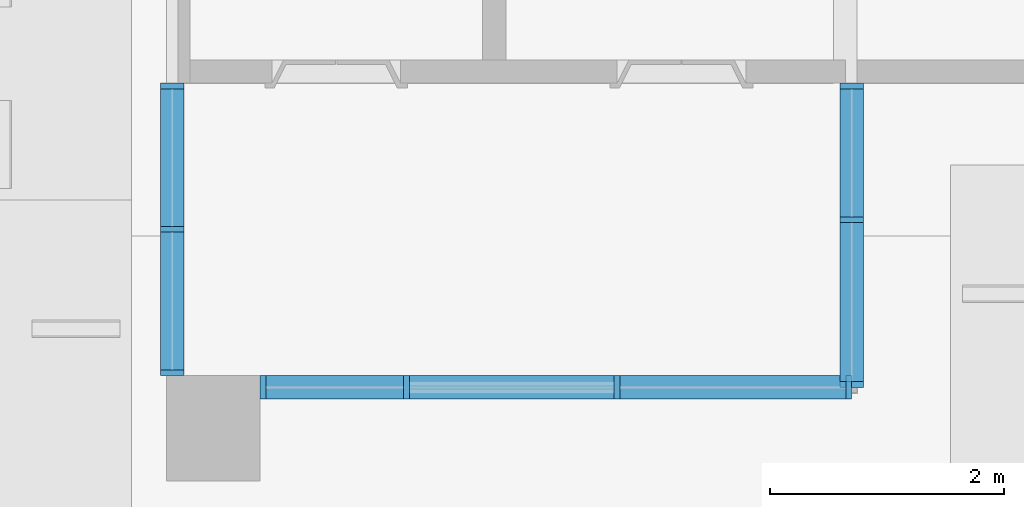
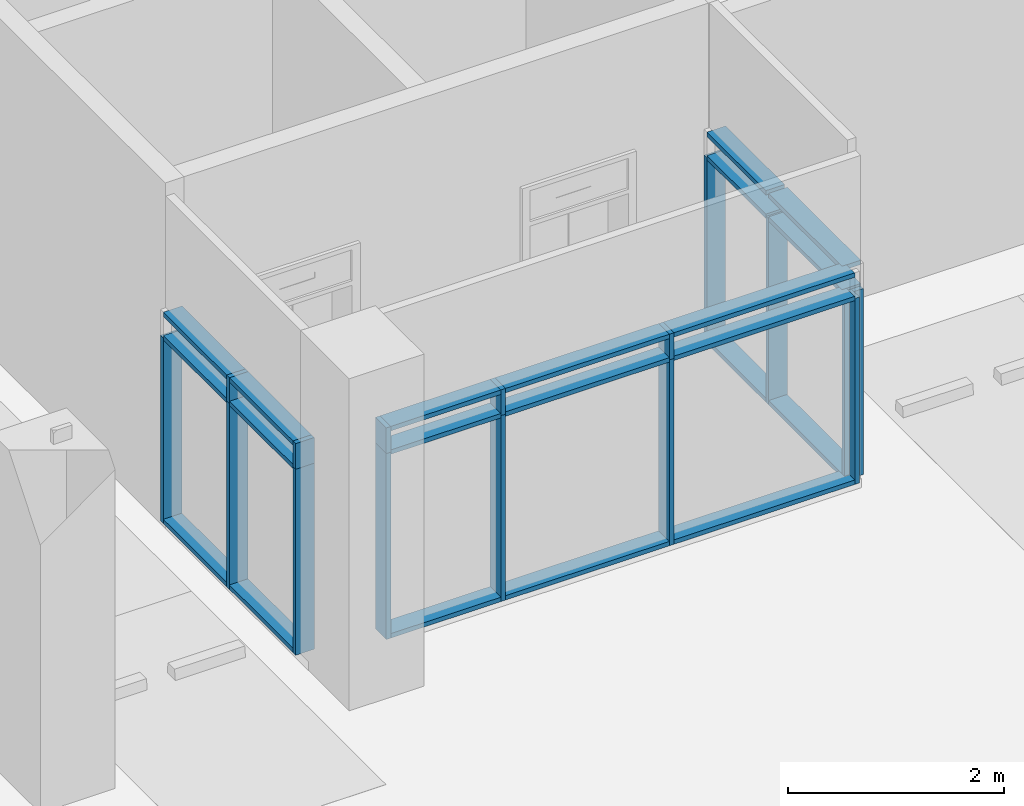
# One storey, part 2 of 30: 36 members, 3 elements without a shape of their own.
"""IFC2X3 building model written with IfcOpenShell, lengths in millimetres."""

import ifcopenshell
import ifcopenshell.guid

model = None  # the IFC model being written
_history = None  # IfcOwnerHistory: only IFC2X3 demands one
_inside = {}  # id of a spatial element -> (the spatial element, [elements in it])
_under = {}  # id of a project, library or spatial element -> (it, [spatial elements below it])
_declared = {}  # id of a project -> (the project, [libraries it declares])
_typed = {}  # id of a type object -> (the type object, [elements of that type])
_made_of = {}  # id of a material, layer set ... -> (it, [elements and type objects made of it])


def new_model(schema):
    """Start an empty IFC model of exactly this schema.

    Asked for "IFC4X3", IfcOpenShell would pick the latest addendum, in which some entities
    have other attributes; the version numbers below select the first issue.
    IFC2X3 requires an IfcOwnerHistory on every rooted entity: one is made here for all.
    """
    global model, _history
    if schema == "IFC4X3":
        model = ifcopenshell.file(schema_version=(4, 3, 0, 0))
    else:
        model = ifcopenshell.file(schema=schema)
    _inside.clear()
    _under.clear()
    _declared.clear()
    _typed.clear()
    _made_of.clear()
    _history = None
    if model.schema == "IFC2X3":
        org = make("IfcOrganization", Name="unknown")
        user = make(
            "IfcPersonAndOrganization",
            ThePerson=make("IfcPerson", FamilyName="unknown"),
            TheOrganization=org,
        )
        app = make(
            "IfcApplication",
            ApplicationDeveloper=org,
            Version="unknown",
            ApplicationFullName="unknown",
            ApplicationIdentifier="unknown",
        )
        _history = make(
            "IfcOwnerHistory",
            OwningUser=user,
            OwningApplication=app,
            ChangeAction="ADDED",
            CreationDate=0,
        )
    return model


def make(cls, **values):
    """One entity of the class cls with the attributes given. An attribute that is None is left unset."""
    return model.create_entity(
        cls, **{name: value for name, value in values.items() if value is not None}
    )


def entity(cls, *values):
    """Any entity or typed value of the class cls, its attributes in the order of the schema. None: left unset."""
    e = model.create_entity(cls)
    for i, value in enumerate(values):
        if value is not None:
            e[i] = value
    return e


def rooted(cls, **values):
    """An entity with a GlobalId (a new one), such as an element, a storey or a relation."""
    return make(cls, GlobalId=ifcopenshell.guid.new(), OwnerHistory=_history, **values)


def si_unit(unit_type, name, prefix=None):
    """IfcSIUnit, for example si_unit("LENGTHUNIT", "METRE", prefix="MILLI")."""
    return make("IfcSIUnit", UnitType=unit_type, Prefix=prefix, Name=name)


def converted_unit(unit_type, name, factor, base, dimensions=None, offset=None):
    """IfcConversionBasedUnit, such as the inch: factor (a typed value) times the base unit."""
    return make(
        "IfcConversionBasedUnit"
        if offset is None
        else "IfcConversionBasedUnitWithOffset",
        ConversionOffset=offset,
        Dimensions=None
        if dimensions is None
        else entity("IfcDimensionalExponents", *dimensions),
        UnitType=unit_type,
        Name=name,
        ConversionFactor=make(
            "IfcMeasureWithUnit", ValueComponent=factor, UnitComponent=base
        ),
    )


def derived_unit(unit_type, elements):
    """IfcDerivedUnit: a product of units, each with its exponent."""
    return make(
        "IfcDerivedUnit",
        Elements=[
            make("IfcDerivedUnitElement", Unit=unit, Exponent=power)
            for unit, power in elements
        ],
        UnitType=unit_type,
    )


def assignment(units):
    """IfcUnitAssignment: the units of a project."""
    return None if units is None else make("IfcUnitAssignment", Units=units)


def point(xyz):
    """IfcCartesianPoint."""
    return None if xyz is None else make("IfcCartesianPoint", Coordinates=xyz)


def direction(xyz):
    """IfcDirection."""
    return None if xyz is None else make("IfcDirection", DirectionRatios=xyz)


def frame(location, z_axis=None, x_axis=None):
    """IfcAxis2Placement3D, a coordinate frame: its origin and axes. An axis left out is left unset."""
    return make(
        "IfcAxis2Placement3D",
        Location=point(location),
        Axis=direction(z_axis),
        RefDirection=direction(x_axis),
    )


def frame_2d(location, x_axis=None):
    """IfcAxis2Placement2D, a coordinate frame in the plane: its origin and x axis."""
    return make(
        "IfcAxis2Placement2D", Location=point(location), RefDirection=direction(x_axis)
    )


def origin():
    """The frame at (0, 0, 0) with its axes left unset."""
    return frame((0.0, 0.0, 0.0))


def origin_2d_with_axis():
    """The frame at (0, 0) in the plane with the x axis (1, 0) written out."""
    return frame_2d((0.0, 0.0), x_axis=(1.0, 0.0))


def place(relative_to, where):
    """IfcLocalPlacement: puts the frame where relative to a parent placement (None: the world)."""
    return make(
        "IfcLocalPlacement", PlacementRelTo=relative_to, RelativePlacement=where
    )


def context(
    kind, dimensions, precision=None, world=None, true_north=None, identifier=None
):
    """IfcGeometricRepresentationContext, for example the 3D "Model" context."""
    return make(
        "IfcGeometricRepresentationContext",
        ContextIdentifier=identifier,
        ContextType=kind,
        CoordinateSpaceDimension=dimensions,
        Precision=precision,
        WorldCoordinateSystem=world,
        TrueNorth=true_north,
    )


def subcontext(parent, identifier, kind, view, scale=None):
    """IfcGeometricRepresentationSubContext, for example "Body" below "Model"."""
    return make(
        "IfcGeometricRepresentationSubContext",
        ContextIdentifier=identifier,
        ContextType=kind,
        ParentContext=parent,
        TargetScale=scale,
        TargetView=view,
    )


def project(units=None, contexts=None):
    """IfcProject with its units and contexts."""
    return rooted(
        "IfcProject",
        Name="project",
        RepresentationContexts=contexts,
        UnitsInContext=assignment(units),
    )


def spatial(cls, under=None, at=None, **own):
    """A site, building, storey or space (cls), placed at a placement, below another one or the project."""
    s = rooted(cls, ObjectPlacement=at, **own)
    if under is not None:
        _under.setdefault(under.id(), (under, []))[1].append(s)
    return s


def profile(cls, at=None, kind="AREA", **sizes):
    """A parametric profile (cls). Its sizes go by their IFC names, for example OverallWidth=200.0."""
    return make(cls, ProfileType=kind, Position=at, **sizes)


def rectangle(**sizes):
    """IfcRectangleProfileDef."""
    return profile("IfcRectangleProfileDef", **sizes)


def extrude(swept, where, along, depth):
    """IfcExtrudedAreaSolid: the profile swept, set in the frame where, extruded along a direction by depth."""
    return make(
        "IfcExtrudedAreaSolid",
        SweptArea=swept,
        Position=where,
        ExtrudedDirection=direction(along),
        Depth=depth,
    )


def shape(context_of_items, identifier, shape_type, items):
    """IfcShapeRepresentation: the items that make up one representation, for example the "Body"."""
    return make(
        "IfcShapeRepresentation",
        ContextOfItems=context_of_items,
        RepresentationIdentifier=identifier,
        RepresentationType=shape_type,
        Items=items,
    )


def source(mapping_origin, context_of_items, identifier, shape_type, items):
    """IfcRepresentationMap: a shape defined once, which mapped items show again and again."""
    return make(
        "IfcRepresentationMap",
        MappingOrigin=mapping_origin,
        MappedRepresentation=shape(context_of_items, identifier, shape_type, items),
    )


def transform(
    local_origin,
    x_axis=None,
    y_axis=None,
    z_axis=None,
    scale=None,
    scale2=None,
    scale3=None,
    uniform=True,
):
    """IfcCartesianTransformationOperator3D, or its non-uniform kind. x_axis, y_axis, z_axis: its Axis1, 2, 3."""
    if uniform:
        return make(
            "IfcCartesianTransformationOperator3D",
            Axis1=direction(x_axis),
            Axis2=direction(y_axis),
            LocalOrigin=point(local_origin),
            Scale=scale,
            Axis3=direction(z_axis),
        )
    return make(
        "IfcCartesianTransformationOperator3DnonUniform",
        Axis1=direction(x_axis),
        Axis2=direction(y_axis),
        LocalOrigin=point(local_origin),
        Scale=scale,
        Axis3=direction(z_axis),
        Scale2=scale2,
        Scale3=scale3,
    )


def mapped(mapping_source, mapping_target):
    """IfcMappedItem: shows the shape of a source again, moved by a transform."""
    return make(
        "IfcMappedItem", MappingSource=mapping_source, MappingTarget=mapping_target
    )


def material(Name=None, Category=None):
    """IfcMaterial."""
    return make("IfcMaterial", Name=Name, Category=Category)


def made_of(thing, what):
    """Note that an element or type object is made of a material, layer set ...; save() writes the relation."""
    if what is not None:
        _made_of.setdefault(what.id(), (what, []))[1].append(thing)
    return thing


def type_object(cls, material=None, **own):
    """A type object (cls), such as IfcWallType, which elements share."""
    return made_of(rooted(cls, **own), material)


def type_shapes(of_type, sources):
    """Give a type object the sources (RepresentationMaps) that its elements show as mapped items."""
    of_type.RepresentationMaps = sources


def element(
    cls,
    number,
    at=None,
    inside=None,
    cuts=None,
    type_object=None,
    material=None,
    context=None,
    identifier="Body",
    shape_type=None,
    held_by="IfcProductDefinitionShape",
    body=None,
    shapes=None,
    **own,
):
    """One element of the class cls, such as IfcWall. Its Tag is "e" and its number.

    at: its placement. inside: the storey or other place that contains it. cuts: it is an
    opening in that element (IfcRelVoidsElement). A single representation is given by context,
    identifier, shape_type and body (its items); several are given by shapes. held_by: the class
    of the entity that holds the representations. save() writes the other relations.
    """
    e = rooted(cls, Tag="e%d" % number, ObjectPlacement=at, **own)
    if body is not None:
        shapes = [shape(context, identifier, shape_type, body)]
    if shapes is not None:
        e.Representation = make(held_by, Representations=shapes)
    if inside is not None:
        _inside.setdefault(inside.id(), (inside, []))[1].append(e)
    if cuts is not None:
        rooted(
            "IfcRelVoidsElement", RelatingBuildingElement=cuts, RelatedOpeningElement=e
        )
    if type_object is not None:
        _typed.setdefault(type_object.id(), (type_object, []))[1].append(e)
    return made_of(e, material)


def aggregate(whole, parts):
    """IfcRelAggregates: a whole, such as a stair, and the parts it consists of."""
    return rooted("IfcRelAggregates", RelatingObject=whole, RelatedObjects=parts)


def save(model, path):
    """Write the relations noted so far, then the file.

    IfcRelAggregates (storeys below a building ...), IfcRelContainedInSpatialStructure (elements
    in a storey), IfcRelDefinesByType, IfcRelAssociatesMaterial and IfcRelDeclares: one each for
    every whole, place, type object, material and project.
    """
    for whole, parts in _under.values():
        aggregate(whole, parts)
    for where, things in _inside.values():
        rooted(
            "IfcRelContainedInSpatialStructure",
            RelatedElements=things,
            RelatingStructure=where,
        )
    for kind, things in _typed.values():
        rooted("IfcRelDefinesByType", RelatedObjects=things, RelatingType=kind)
    for what, things in _made_of.values():
        rooted("IfcRelAssociatesMaterial", RelatedObjects=things, RelatingMaterial=what)
    for by, libraries in _declared.values():
        rooted("IfcRelDeclares", RelatingContext=by, RelatedDefinitions=libraries)
    model.write(path)


model = new_model("IFC2X3")

# Units and contexts
model_context = context("Model", 3, precision=0.01, world=origin(), true_north=direction((6.123031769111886e-17, 1.0)))
body_context = subcontext(model_context, "Body", "Model", "MODEL_VIEW")
ifc_project = project(units=[si_unit("LENGTHUNIT", "METRE", prefix="MILLI"), si_unit("AREAUNIT", "SQUARE_METRE"), si_unit("VOLUMEUNIT", "CUBIC_METRE"), converted_unit("PLANEANGLEUNIT", "DEGREE", entity("IfcRatioMeasure", 0.017453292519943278), si_unit("PLANEANGLEUNIT", "RADIAN"), dimensions=[0, 0, 0, 0, 0, 0, 0]), si_unit("MASSUNIT", "GRAM", prefix="KILO"), derived_unit("MASSDENSITYUNIT", [(si_unit("MASSUNIT", "GRAM", prefix="KILO"), 1), (si_unit("LENGTHUNIT", "METRE"), -3)]), derived_unit("MOMENTOFINERTIAUNIT", [(si_unit("LENGTHUNIT", "METRE"), 4)]), si_unit("TIMEUNIT", "SECOND"), si_unit("FREQUENCYUNIT", "HERTZ"), si_unit("THERMODYNAMICTEMPERATUREUNIT", "DEGREE_CELSIUS"), derived_unit("THERMALTRANSMITTANCEUNIT", [(si_unit("MASSUNIT", "GRAM", prefix="KILO"), 1), (si_unit("THERMODYNAMICTEMPERATUREUNIT", "KELVIN"), -1), (si_unit("TIMEUNIT", "SECOND"), -3)]), derived_unit("VOLUMETRICFLOWRATEUNIT", [(si_unit("LENGTHUNIT", "METRE"), 3), (si_unit("TIMEUNIT", "SECOND"), -1)]), derived_unit("MASSFLOWRATEUNIT", [(si_unit("MASSUNIT", "GRAM", prefix="KILO"), 1), (si_unit("TIMEUNIT", "SECOND"), -1)]), derived_unit("ROTATIONALFREQUENCYUNIT", [(si_unit("TIMEUNIT", "SECOND"), -1)]), si_unit("ELECTRICCURRENTUNIT", "AMPERE"), si_unit("ELECTRICVOLTAGEUNIT", "VOLT"), si_unit("POWERUNIT", "WATT"), si_unit("FORCEUNIT", "NEWTON", prefix="KILO"), si_unit("ILLUMINANCEUNIT", "LUX"), si_unit("LUMINOUSFLUXUNIT", "LUMEN"), si_unit("LUMINOUSINTENSITYUNIT", "CANDELA"), derived_unit("USERDEFINED", [(si_unit("MASSUNIT", "GRAM", prefix="KILO"), -1), (si_unit("LENGTHUNIT", "METRE"), -2), (si_unit("TIMEUNIT", "SECOND"), 3), (si_unit("LUMINOUSFLUXUNIT", "LUMEN"), 1)]), derived_unit("SOUNDPOWERUNIT", [(si_unit("MASSUNIT", "GRAM", prefix="KILO"), 1), (si_unit("LENGTHUNIT", "METRE"), 2), (si_unit("TIMEUNIT", "SECOND"), -3)]), derived_unit("SOUNDPRESSUREUNIT", [(si_unit("MASSUNIT", "GRAM", prefix="KILO"), 1), (si_unit("LENGTHUNIT", "METRE"), -1), (si_unit("TIMEUNIT", "SECOND"), -2)]), derived_unit("LINEARVELOCITYUNIT", [(si_unit("LENGTHUNIT", "METRE"), 1), (si_unit("TIMEUNIT", "SECOND"), -1)]), si_unit("PRESSUREUNIT", "PASCAL"), derived_unit("USERDEFINED", [(si_unit("LENGTHUNIT", "METRE"), -2), (si_unit("MASSUNIT", "GRAM", prefix="KILO"), 1), (si_unit("TIMEUNIT", "SECOND"), -2)]), derived_unit("LINEARFORCEUNIT", [(si_unit("MASSUNIT", "GRAM", prefix="KILO"), 1), (si_unit("LENGTHUNIT", "METRE"), 1), (si_unit("TIMEUNIT", "SECOND"), -2), (si_unit("LENGTHUNIT", "METRE"), -1)]), derived_unit("PLANARFORCEUNIT", [(si_unit("MASSUNIT", "GRAM", prefix="KILO"), 1), (si_unit("LENGTHUNIT", "METRE"), 1), (si_unit("TIMEUNIT", "SECOND"), -2), (si_unit("LENGTHUNIT", "METRE"), -2)])], contexts=[model_context])

# Site, building, storey
site_placement = place(None, frame((-14167.972527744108, -657.2125860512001, 0.0)))
site = spatial("IfcSite", under=ifc_project, at=site_placement, Name="Default", CompositionType="ELEMENT")
building_placement = place(site_placement, origin())
building = spatial("IfcBuilding", under=site, at=building_placement, Name="Sample Building", CompositionType="ELEMENT")
storey_placement = place(building_placement, frame((0.0, 0.0, -10100.0)))
storey = spatial("IfcBuildingStorey", under=building, at=storey_placement, Name="지하2층", CompositionType="ELEMENT", Elevation=-10100.0)

# Curtain wall, members
curtain_wall_type = type_object("IfcCurtainWallType", Name="커튼월:CW112-스테인리스 스틸 커튼월", PredefinedType="NOTDEFINED")
curtain_wall_1_placement = place(storey_placement, frame((0.0, 0.0, 10100.0)))
curtain_wall_1 = element("IfcCurtainWall", 1, at=curtain_wall_1_placement, inside=storey, type_object=curtain_wall_type, Name="커튼월:CW112-스테인리스 스틸 커튼월", ObjectType="커튼월:CW112-스테인리스 스틸 커튼월")
ifc_material = material(Name="<Unnamed>")
member_type_1 = type_object("IfcMemberType", Name="직사각형 멀리언:CW200-직사각형 멀리언 50x200mm", PredefinedType="MULLION", material=ifc_material)
shared_shape_1 = source(origin(), body_context, "Body", "SweptSolid", [
    extrude(rectangle(XDim=200.0, YDim=50.0, at=origin_2d_with_axis()), frame((-25.0, 0.0, -1175.0), z_axis=(0.0, 0.0, 1.0), x_axis=(0.0, -1.0, 0.0)), (0.0, 0.0, 1.0), 1175.0000000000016),
])
type_shapes(member_type_1, [shared_shape_1])
member_1_placement = place(curtain_wall_1_placement, frame((30917.97249113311, 12957.21258605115, -9900.0), z_axis=(-1.0, 0.0, 0.0), x_axis=(0.0, 0.0, -1.0)))
member_1 = element("IfcMember", 2, at=member_1_placement, type_object=member_type_1, material=ifc_material, Name="직사각형 멀리언:CW200-직사각형 멀리언 50x200mm", ObjectType="직사각형 멀리언:CW200-직사각형 멀리언 50x200mm", context=body_context, shape_type="MappedRepresentation", body=[
    mapped(shared_shape_1, transform((0.0, 0.0, 0.0), scale=1.0)),
])
member_type_2 = type_object("IfcMemberType", Name="직사각형 멀리언:CW200-직사각형 멀리언 50x200mm", PredefinedType="MULLION", material=ifc_material)
shared_shape_2 = source(origin(), body_context, "Body", "SweptSolid", [
    extrude(rectangle(XDim=200.0, YDim=50.0, at=origin_2d_with_axis()), frame((-25.0, 0.0, -1175.0), z_axis=(0.0, 0.0, 1.0), x_axis=(0.0, -1.0, 0.0)), (0.0, 0.0, 1.0), 1175.000000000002),
])
type_shapes(member_type_2, [shared_shape_2])
member_2_placement = place(curtain_wall_1_placement, frame((32092.972491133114, 12957.212586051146, -7510.0), z_axis=(1.0, 0.0, 0.0), x_axis=(0.0, 0.0, 1.0)))
member_2 = element("IfcMember", 3, at=member_2_placement, type_object=member_type_2, material=ifc_material, Name="직사각형 멀리언:CW200-직사각형 멀리언 50x200mm", ObjectType="직사각형 멀리언:CW200-직사각형 멀리언 50x200mm", context=body_context, shape_type="MappedRepresentation", body=[
    mapped(shared_shape_2, transform((0.0, 0.0, 0.0), scale=1.0)),
])
member_type_3 = type_object("IfcMemberType", Name="직사각형 멀리언:CW200-직사각형 멀리언 50x200mm", PredefinedType="MULLION", material=ifc_material)
shared_shape_3 = source(origin(), body_context, "Body", "SweptSolid", [
    extrude(rectangle(XDim=200.0, YDim=50.0, at=origin_2d_with_axis()), frame((0.0, 0.0, -2100.0), z_axis=(0.0, 0.0, 1.0), x_axis=(0.0, -1.0, 0.0)), (0.0, 0.0, 1.0), 2100.0),
])
type_shapes(member_type_3, [shared_shape_3])
member_3_placement = place(curtain_wall_1_placement, frame((32117.97249113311, 12957.212586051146, -9900.0), z_axis=(0.0, 0.0, -1.0), x_axis=(1.0, 0.0, 0.0)))
member_3 = element("IfcMember", 4, at=member_3_placement, type_object=member_type_3, material=ifc_material, Name="직사각형 멀리언:CW200-직사각형 멀리언 50x200mm", ObjectType="직사각형 멀리언:CW200-직사각형 멀리언 50x200mm", context=body_context, shape_type="MappedRepresentation", body=[
    mapped(shared_shape_3, transform((0.0, 0.0, 0.0), scale=1.0)),
])
member_4_placement = place(curtain_wall_1_placement, frame((33917.97249113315, 12957.21258605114, -9900.0), z_axis=(0.0, 0.0, -1.0), x_axis=(1.0, 0.0, 0.0)))
member_4 = element("IfcMember", 5, at=member_4_placement, type_object=member_type_3, material=ifc_material, Name="직사각형 멀리언:CW200-직사각형 멀리언 50x200mm", ObjectType="직사각형 멀리언:CW200-직사각형 멀리언 50x200mm", context=body_context, shape_type="MappedRepresentation", body=[
    mapped(shared_shape_3, transform((0.0, 0.0, 0.0), scale=1.0)),
])

# Curtain wall, member
curtain_wall_2_placement = place(storey_placement, frame((0.0, 0.0, 10100.0)))
curtain_wall_2 = element("IfcCurtainWall", 6, at=curtain_wall_2_placement, inside=storey, type_object=curtain_wall_type, Name="커튼월:CW112-스테인리스 스틸 커튼월", ObjectType="커튼월:CW112-스테인리스 스틸 커튼월")
member_5_placement = place(curtain_wall_2_placement, frame((35922.97249113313, 14390.527913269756, -9900.0), z_axis=(0.0, 0.0, -1.0), x_axis=(0.0, -1.0, 0.0)))
member_5 = element("IfcMember", 7, at=member_5_placement, type_object=member_type_3, material=ifc_material, Name="직사각형 멀리언:CW200-직사각형 멀리언 50x200mm", ObjectType="직사각형 멀리언:CW200-직사각형 멀리언 50x200mm", context=body_context, shape_type="MappedRepresentation", body=[
    mapped(shared_shape_3, transform((0.0, 0.0, 0.0), scale=1.0)),
])

# Member
member_type_4 = type_object("IfcMemberType", Name="직사각형 멀리언:CW200-직사각형 멀리언 50x200mm", PredefinedType="MULLION", material=ifc_material)
shared_shape_4 = source(origin(), body_context, "Body", "SweptSolid", [
    extrude(rectangle(XDim=200.0, YDim=50.0, at=origin_2d_with_axis()), frame((-25.0, 0.0, -2100.0), z_axis=(0.0, 0.0, 1.0), x_axis=(0.0, -1.0, 0.0)), (0.0, 0.0, 1.0), 2099.9999999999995),
])
type_shapes(member_type_4, [shared_shape_4])
member_6_placement = place(curtain_wall_1_placement, frame((30867.97249113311, 12957.21258605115, -7800.0), z_axis=(0.0, 0.0, 1.0), x_axis=(-1.0, 0.0, 0.0)))
member_6 = element("IfcMember", 8, at=member_6_placement, type_object=member_type_4, material=ifc_material, Name="직사각형 멀리언:CW200-직사각형 멀리언 50x200mm", ObjectType="직사각형 멀리언:CW200-직사각형 멀리언 50x200mm", context=body_context, shape_type="MappedRepresentation", body=[
    mapped(shared_shape_4, transform((0.0, 0.0, 0.0), scale=1.0)),
])

member_7_placement = place(curtain_wall_2_placement, frame((35922.97249113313, 15557.212586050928, -7800.0), z_axis=(0.0, 0.0, 1.0), x_axis=(0.0, 1.0, 0.0)))
member_7 = element("IfcMember", 9, at=member_7_placement, type_object=member_type_4, material=ifc_material, Name="직사각형 멀리언:CW200-직사각형 멀리언 50x200mm", ObjectType="직사각형 멀리언:CW200-직사각형 멀리언 50x200mm", context=body_context, shape_type="MappedRepresentation", body=[
    mapped(shared_shape_4, transform((0.0, 0.0, 0.0), scale=1.0)),
])

member_type_5 = type_object("IfcMemberType", Name="직사각형 멀리언:CW200-직사각형 멀리언 50x200mm", PredefinedType="MULLION", material=ifc_material)
shared_shape_5 = source(origin(), body_context, "Body", "SweptSolid", [
    extrude(rectangle(XDim=200.0, YDim=50.0, at=origin_2d_with_axis()), frame((0.0, 0.0, -1175.0), z_axis=(0.0, 0.0, 1.0), x_axis=(0.0, -1.0, 0.0)), (0.0, 0.0, 1.0), 1175.0000000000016),
])
type_shapes(member_type_5, [shared_shape_5])
member_8_placement = place(curtain_wall_1_placement, frame((32092.972491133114, 12957.212586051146, -7800.0), z_axis=(1.0, 0.0, 0.0), x_axis=(0.0, 0.0, 1.0)))
member_8 = element("IfcMember", 10, at=member_8_placement, type_object=member_type_5, material=ifc_material, Name="직사각형 멀리언:CW200-직사각형 멀리언 50x200mm", ObjectType="직사각형 멀리언:CW200-직사각형 멀리언 50x200mm", context=body_context, shape_type="MappedRepresentation", body=[
    mapped(shared_shape_5, transform((0.0, 0.0, 0.0), scale=1.0)),
])

member_type_6 = type_object("IfcMemberType", Name="직사각형 멀리언:CW200-직사각형 멀리언 50x200mm", PredefinedType="MULLION", material=ifc_material)
shared_shape_6 = source(origin(), body_context, "Body", "SweptSolid", [
    extrude(rectangle(XDim=200.0, YDim=50.0, at=origin_2d_with_axis()), frame((-25.0, 0.0, -2100.0), z_axis=(0.0, 0.0, 1.0), x_axis=(0.0, -1.0, 0.0)), (0.0, 0.0, 1.0), 2100.0),
])
type_shapes(member_type_6, [shared_shape_6])
member_9_placement = place(curtain_wall_1_placement, frame((35922.97249113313, 12957.212586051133, -9900.0), z_axis=(0.0, 0.0, -1.0), x_axis=(1.0, 0.0, 0.0)))
member_9 = element("IfcMember", 11, at=member_9_placement, type_object=member_type_6, material=ifc_material, Name="직사각형 멀리언:CW200-직사각형 멀리언 50x200mm", ObjectType="직사각형 멀리언:CW200-직사각형 멀리언 50x200mm", context=body_context, shape_type="MappedRepresentation", body=[
    mapped(shared_shape_6, transform((0.0, 0.0, 0.0), scale=1.0)),
])

member_10_placement = place(curtain_wall_2_placement, frame((35922.97249113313, 12957.212586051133, -9900.0), z_axis=(0.0, 0.0, -1.0), x_axis=(0.0, -1.0, 0.0)))
member_10 = element("IfcMember", 12, at=member_10_placement, type_object=member_type_6, material=ifc_material, Name="직사각형 멀리언:CW200-직사각형 멀리언 50x200mm", ObjectType="직사각형 멀리언:CW200-직사각형 멀리언 50x200mm", context=body_context, shape_type="MappedRepresentation", body=[
    mapped(shared_shape_6, transform((0.0, 0.0, 0.0), scale=1.0)),
])

# Curtain wall, members
curtain_wall_3_placement = place(storey_placement, frame((0.0, 0.0, 10100.0)))
curtain_wall_3 = element("IfcCurtainWall", 13, at=curtain_wall_3_placement, inside=storey, type_object=curtain_wall_type, Name="커튼월:CW112-스테인리스 스틸 커튼월", ObjectType="커튼월:CW112-스테인리스 스틸 커튼월")
member_type_7 = type_object("IfcMemberType", Name="직사각형 멀리언:CW200-직사각형 멀리언 50x200mm", PredefinedType="MULLION", material=ifc_material)
shared_shape_7 = source(origin(), body_context, "Body", "SweptSolid", [
    extrude(rectangle(XDim=200.0, YDim=50.0, at=origin_2d_with_axis()), frame((0.0, 0.0, -2100.0), z_axis=(0.0, 0.0, 1.0), x_axis=(0.0, -1.0, 0.0)), (0.0, 0.0, 1.0), 2100.0),
])
type_shapes(member_type_7, [shared_shape_7])
member_11_placement = place(curtain_wall_3_placement, frame((30116.12581445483, 14309.16726650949, -9900.0), z_axis=(0.0, 0.0, -1.0), x_axis=(0.0, -1.0, 0.0)))
member_11 = element("IfcMember", 14, at=member_11_placement, type_object=member_type_7, material=ifc_material, Name="직사각형 멀리언:CW200-직사각형 멀리언 50x200mm", ObjectType="직사각형 멀리언:CW200-직사각형 멀리언 50x200mm", context=body_context, shape_type="MappedRepresentation", body=[
    mapped(shared_shape_7, transform((0.0, 0.0, 0.0), scale=1.0)),
])
member_type_8 = type_object("IfcMemberType", Name="직사각형 멀리언:CW200-직사각형 멀리언 50x200mm", PredefinedType="MULLION", material=ifc_material)
shared_shape_8 = source(origin(), body_context, "Body", "SweptSolid", [
    extrude(rectangle(XDim=200.0, YDim=50.0, at=origin_2d_with_axis()), frame((-25.0, 0.0, -1176.9549585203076), z_axis=(0.0, 0.0, 1.0), x_axis=(0.0, -1.0, 0.0)), (0.0, 0.0, 1.0), 1176.9549585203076),
])
type_shapes(member_type_8, [shared_shape_8])
member_12_placement = place(curtain_wall_3_placement, frame((30116.12581445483, 13107.212307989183, -7510.0), z_axis=(0.0, -1.0, 0.0), x_axis=(0.0, 0.0, 1.0)))
member_12 = element("IfcMember", 15, at=member_12_placement, type_object=member_type_8, material=ifc_material, Name="직사각형 멀리언:CW200-직사각형 멀리언 50x200mm", ObjectType="직사각형 멀리언:CW200-직사각형 멀리언 50x200mm", context=body_context, shape_type="MappedRepresentation", body=[
    mapped(shared_shape_8, transform((0.0, 0.0, 0.0), scale=1.0)),
])
member_type_9 = type_object("IfcMemberType", Name="직사각형 멀리언:CW200-직사각형 멀리언 50x200mm", PredefinedType="MULLION", material=ifc_material)
shared_shape_9 = source(origin(), body_context, "Body", "SweptSolid", [
    extrude(rectangle(XDim=200.0, YDim=50.0, at=origin_2d_with_axis()), frame((-25.0, 0.0, -1173.045319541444), z_axis=(0.0, 0.0, 1.0), x_axis=(0.0, -1.0, 0.0)), (0.0, 0.0, 1.0), 1173.045319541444),
])
type_shapes(member_type_9, [shared_shape_9])
member_13_placement = place(curtain_wall_3_placement, frame((30116.125814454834, 15507.212586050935, -9900.0), z_axis=(0.0, 1.0, 0.0), x_axis=(0.0, 0.0, -1.0)))
member_13 = element("IfcMember", 16, at=member_13_placement, type_object=member_type_9, material=ifc_material, Name="직사각형 멀리언:CW200-직사각형 멀리언 50x200mm", ObjectType="직사각형 멀리언:CW200-직사각형 멀리언 50x200mm", context=body_context, shape_type="MappedRepresentation", body=[
    mapped(shared_shape_9, transform((0.0, 0.0, 0.0), scale=1.0)),
])
member_type_10 = type_object("IfcMemberType", Name="직사각형 멀리언:CW200-직사각형 멀리언 50x200mm", PredefinedType="MULLION", material=ifc_material)
shared_shape_10 = source(origin(), body_context, "Body", "SweptSolid", [
    extrude(rectangle(XDim=200.0, YDim=50.0, at=origin_2d_with_axis()), frame((-25.0, 0.0, -2100.0), z_axis=(0.0, 0.0, 1.0), x_axis=(0.0, -1.0, 0.0)), (0.0, 0.0, 1.0), 2100.0),
])
type_shapes(member_type_10, [shared_shape_10])
member_14_placement = place(curtain_wall_3_placement, frame((30116.12581445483, 13057.212307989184, -9900.0), z_axis=(0.0, 0.0, -1.0), x_axis=(0.0, -1.0, 0.0)))
member_14 = element("IfcMember", 17, at=member_14_placement, type_object=member_type_10, material=ifc_material, Name="직사각형 멀리언:CW200-직사각형 멀리언 50x200mm", ObjectType="직사각형 멀리언:CW200-직사각형 멀리언 50x200mm", context=body_context, shape_type="MappedRepresentation", body=[
    mapped(shared_shape_10, transform((0.0, 0.0, 0.0), scale=1.0)),
])
member_type_11 = type_object("IfcMemberType", Name="직사각형 멀리언:CW200-직사각형 멀리언 50x200mm", PredefinedType="MULLION", material=ifc_material)
shared_shape_11 = source(origin(), body_context, "Body", "SweptSolid", [
    extrude(rectangle(XDim=200.0, YDim=50.0, at=origin_2d_with_axis()), frame((-25.0, 0.0, -1173.045319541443), z_axis=(0.0, 0.0, 1.0), x_axis=(0.0, -1.0, 0.0)), (0.0, 0.0, 1.0), 1173.045319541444),
])
type_shapes(member_type_11, [shared_shape_11])
member_15_placement = place(curtain_wall_3_placement, frame((30116.12581445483, 14334.167266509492, -7510.0), z_axis=(0.0, -1.0, 0.0), x_axis=(0.0, 0.0, 1.0)))
member_15 = element("IfcMember", 18, at=member_15_placement, type_object=member_type_11, material=ifc_material, Name="직사각형 멀리언:CW200-직사각형 멀리언 50x200mm", ObjectType="직사각형 멀리언:CW200-직사각형 멀리언 50x200mm", context=body_context, shape_type="MappedRepresentation", body=[
    mapped(shared_shape_11, transform((0.0, 0.0, 0.0), scale=1.0)),
])
member_type_12 = type_object("IfcMemberType", Name="직사각형 멀리언:CW200-직사각형 멀리언 50x200mm", PredefinedType="MULLION", material=ifc_material)
shared_shape_12 = source(origin(), body_context, "Body", "SweptSolid", [
    extrude(rectangle(XDim=200.0, YDim=50.0, at=origin_2d_with_axis()), frame((-25.0, 0.0, -1176.9549585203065), z_axis=(0.0, 0.0, 1.0), x_axis=(0.0, -1.0, 0.0)), (0.0, 0.0, 1.0), 1176.9549585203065),
])
type_shapes(member_type_12, [shared_shape_12])
member_16_placement = place(curtain_wall_3_placement, frame((30116.12581445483, 14284.16726650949, -9900.0), z_axis=(0.0, 1.0, 0.0), x_axis=(0.0, 0.0, -1.0)))
member_16 = element("IfcMember", 19, at=member_16_placement, type_object=member_type_12, material=ifc_material, Name="직사각형 멀리언:CW200-직사각형 멀리언 50x200mm", ObjectType="직사각형 멀리언:CW200-직사각형 멀리언 50x200mm", context=body_context, shape_type="MappedRepresentation", body=[
    mapped(shared_shape_12, transform((0.0, 0.0, 0.0), scale=1.0)),
])
member_type_13 = type_object("IfcMemberType", Name="직사각형 멀리언:CW200-직사각형 멀리언 50x200mm", PredefinedType="MULLION", material=ifc_material)
shared_shape_13 = source(origin(), body_context, "Body", "SweptSolid", [
    extrude(rectangle(XDim=200.0, YDim=50.0, at=origin_2d_with_axis()), frame((-25.0, 0.0, -290.0), z_axis=(0.0, 0.0, 1.0), x_axis=(0.0, -1.0, 0.0)), (0.0, 0.0, 1.0), 290.0000000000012),
])
type_shapes(member_type_13, [shared_shape_13])
member_17_placement = place(curtain_wall_3_placement, frame((30116.12581445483, 13057.212307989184, -7800.0), z_axis=(0.0, 0.0, -1.0), x_axis=(0.0, -1.0, 0.0)))
member_17 = element("IfcMember", 20, at=member_17_placement, type_object=member_type_13, material=ifc_material, Name="직사각형 멀리언:CW200-직사각형 멀리언 50x200mm", ObjectType="직사각형 멀리언:CW200-직사각형 멀리언 50x200mm", context=body_context, shape_type="MappedRepresentation", body=[
    mapped(shared_shape_13, transform((0.0, 0.0, 0.0), scale=1.0)),
])
member_type_14 = type_object("IfcMemberType", Name="직사각형 멀리언:CW200-직사각형 멀리언 50x200mm", PredefinedType="MULLION", material=ifc_material)
shared_shape_14 = source(origin(), body_context, "Body", "SweptSolid", [
    extrude(rectangle(XDim=200.0, YDim=50.0, at=origin_2d_with_axis()), frame((-25.0, 0.0, -2100.0), z_axis=(0.0, 0.0, 1.0), x_axis=(0.0, -1.0, 0.0)), (0.0, 0.0, 1.0), 2099.999999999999),
])
type_shapes(member_type_14, [shared_shape_14])
member_18_placement = place(curtain_wall_3_placement, frame((30116.125814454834, 15557.212586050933, -7800.0), z_axis=(0.0, 0.0, 1.0), x_axis=(0.0, 1.0, 0.0)))
member_18 = element("IfcMember", 21, at=member_18_placement, type_object=member_type_14, material=ifc_material, Name="직사각형 멀리언:CW200-직사각형 멀리언 50x200mm", ObjectType="직사각형 멀리언:CW200-직사각형 멀리언 50x200mm", context=body_context, shape_type="MappedRepresentation", body=[
    mapped(shared_shape_14, transform((0.0, 0.0, 0.0), scale=1.0)),
])
member_type_15 = type_object("IfcMemberType", Name="직사각형 멀리언:CW200-직사각형 멀리언 50x200mm", PredefinedType="MULLION", material=ifc_material)
shared_shape_15 = source(origin(), body_context, "Body", "SweptSolid", [
    extrude(rectangle(XDim=200.0, YDim=50.0, at=origin_2d_with_axis()), frame((0.0, 0.0, -1173.045319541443), z_axis=(0.0, 0.0, 1.0), x_axis=(0.0, -1.0, 0.0)), (0.0, 0.0, 1.0), 1173.045319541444),
])
type_shapes(member_type_15, [shared_shape_15])
member_19_placement = place(curtain_wall_3_placement, frame((30116.12581445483, 14334.167266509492, -7800.0), z_axis=(0.0, -1.0, 0.0), x_axis=(0.0, 0.0, 1.0)))
member_19 = element("IfcMember", 22, at=member_19_placement, type_object=member_type_15, material=ifc_material, Name="직사각형 멀리언:CW200-직사각형 멀리언 50x200mm", ObjectType="직사각형 멀리언:CW200-직사각형 멀리언 50x200mm", context=body_context, shape_type="MappedRepresentation", body=[
    mapped(shared_shape_15, transform((0.0, 0.0, 0.0), scale=1.0)),
])
member_type_16 = type_object("IfcMemberType", Name="직사각형 멀리언:CW200-직사각형 멀리언 50x200mm", PredefinedType="MULLION", material=ifc_material)
shared_shape_16 = source(origin(), body_context, "Body", "SweptSolid", [
    extrude(rectangle(XDim=200.0, YDim=50.0, at=origin_2d_with_axis()), frame((0.0, 0.0, -1176.9549585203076), z_axis=(0.0, 0.0, 1.0), x_axis=(0.0, -1.0, 0.0)), (0.0, 0.0, 1.0), 1176.9549585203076),
])
type_shapes(member_type_16, [shared_shape_16])
member_20_placement = place(curtain_wall_3_placement, frame((30116.12581445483, 13107.212307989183, -7800.0), z_axis=(0.0, -1.0, 0.0), x_axis=(0.0, 0.0, 1.0)))
member_20 = element("IfcMember", 23, at=member_20_placement, type_object=member_type_16, material=ifc_material, Name="직사각형 멀리언:CW200-직사각형 멀리언 50x200mm", ObjectType="직사각형 멀리언:CW200-직사각형 멀리언 50x200mm", context=body_context, shape_type="MappedRepresentation", body=[
    mapped(shared_shape_16, transform((0.0, 0.0, 0.0), scale=1.0)),
])
member_type_17 = type_object("IfcMemberType", Name="직사각형 멀리언:CW200-직사각형 멀리언 50x200mm", PredefinedType="MULLION", material=ifc_material)
shared_shape_17 = source(origin(), body_context, "Body", "SweptSolid", [
    extrude(rectangle(XDim=200.0, YDim=50.0, at=origin_2d_with_axis()), frame((0.0, 0.0, -290.0), z_axis=(0.0, 0.0, 1.0), x_axis=(0.0, -1.0, 0.0)), (0.0, 0.0, 1.0), 290.0000000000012),
])
type_shapes(member_type_17, [shared_shape_17])
member_21_placement = place(curtain_wall_3_placement, frame((30116.12581445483, 14309.16726650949, -7800.0), z_axis=(0.0, 0.0, -1.0), x_axis=(0.0, -1.0, 0.0)))
member_21 = element("IfcMember", 24, at=member_21_placement, type_object=member_type_17, material=ifc_material, Name="직사각형 멀리언:CW200-직사각형 멀리언 50x200mm", ObjectType="직사각형 멀리언:CW200-직사각형 멀리언 50x200mm", context=body_context, shape_type="MappedRepresentation", body=[
    mapped(shared_shape_17, transform((0.0, 0.0, 0.0), scale=1.0)),
])
aggregate(curtain_wall_3, [member_12, member_13, member_14, member_15, member_16, member_11, member_17, member_18, member_19, member_20, member_21])

# Member
member_type_18 = type_object("IfcMemberType", Name="직사각형 멀리언:CW200-직사각형 멀리언 50x200mm", PredefinedType="MULLION", material=ifc_material)
shared_shape_18 = source(origin(), body_context, "Body", "SweptSolid", [
    extrude(rectangle(XDim=200.0, YDim=50.0, at=origin_2d_with_axis()), frame((-25.0, 0.0, -1930.0), z_axis=(0.0, 0.0, 1.0), x_axis=(0.0, -1.0, 0.0)), (0.0, 0.0, 1.0), 1929.9999999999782),
])
type_shapes(member_type_18, [shared_shape_18])
member_22_placement = place(curtain_wall_1_placement, frame((35872.97249113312, 12957.212586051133, -7510.0), z_axis=(1.0, 0.0, 0.0), x_axis=(0.0, 0.0, 1.0)))
member_22 = element("IfcMember", 25, at=member_22_placement, type_object=member_type_18, material=ifc_material, Name="직사각형 멀리언:CW200-직사각형 멀리언 50x200mm", ObjectType="직사각형 멀리언:CW200-직사각형 멀리언 50x200mm", context=body_context, shape_type="MappedRepresentation", body=[
    mapped(shared_shape_18, transform((0.0, 0.0, 0.0), scale=1.0)),
])

member_type_19 = type_object("IfcMemberType", Name="직사각형 멀리언:CW200-직사각형 멀리언 50x200mm", PredefinedType="MULLION", material=ifc_material)
shared_shape_19 = source(origin(), body_context, "Body", "SweptSolid", [
    extrude(rectangle(XDim=200.0, YDim=50.0, at=origin_2d_with_axis()), frame((-25.0, 0.0, -290.0), z_axis=(0.0, 0.0, 1.0), x_axis=(0.0, -1.0, 0.0)), (0.0, 0.0, 1.0), 290.0000000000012),
])
type_shapes(member_type_19, [shared_shape_19])
member_23_placement = place(curtain_wall_1_placement, frame((30867.97249113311, 12957.21258605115, -7510.0), z_axis=(0.0, 0.0, 1.0), x_axis=(-1.0, 0.0, 0.0)))
member_23 = element("IfcMember", 26, at=member_23_placement, type_object=member_type_19, material=ifc_material, Name="직사각형 멀리언:CW200-직사각형 멀리언 50x200mm", ObjectType="직사각형 멀리언:CW200-직사각형 멀리언 50x200mm", context=body_context, shape_type="MappedRepresentation", body=[
    mapped(shared_shape_19, transform((0.0, 0.0, 0.0), scale=1.0)),
])

member_type_20 = type_object("IfcMemberType", Name="직사각형 멀리언:CW200-직사각형 멀리언 50x200mm", PredefinedType="MULLION", material=ifc_material)
shared_shape_20 = source(origin(), body_context, "Body", "SweptSolid", [
    extrude(rectangle(XDim=200.0, YDim=50.0, at=origin_2d_with_axis()), frame((-25.0, 0.0, -1750.0), z_axis=(0.0, 0.0, 1.0), x_axis=(0.0, -1.0, 0.0)), (0.0, 0.0, 1.0), 1750.0000000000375),
])
type_shapes(member_type_20, [shared_shape_20])
member_24_placement = place(curtain_wall_1_placement, frame((32142.97249113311, 12957.212586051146, -9900.0), z_axis=(-1.0, 0.0, 0.0), x_axis=(0.0, 0.0, -1.0)))
member_24 = element("IfcMember", 27, at=member_24_placement, type_object=member_type_20, material=ifc_material, Name="직사각형 멀리언:CW200-직사각형 멀리언 50x200mm", ObjectType="직사각형 멀리언:CW200-직사각형 멀리언 50x200mm", context=body_context, shape_type="MappedRepresentation", body=[
    mapped(shared_shape_20, transform((0.0, 0.0, 0.0), scale=1.0)),
])

member_type_21 = type_object("IfcMemberType", Name="직사각형 멀리언:CW200-직사각형 멀리언 50x200mm", PredefinedType="MULLION", material=ifc_material)
shared_shape_21 = source(origin(), body_context, "Body", "SweptSolid", [
    extrude(rectangle(XDim=200.0, YDim=50.0, at=origin_2d_with_axis()), frame((0.0, 0.0, -1750.0), z_axis=(0.0, 0.0, 1.0), x_axis=(0.0, -1.0, 0.0)), (0.0, 0.0, 1.0), 1750.0000000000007),
])
type_shapes(member_type_21, [shared_shape_21])
member_25_placement = place(curtain_wall_1_placement, frame((33892.97249113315, 12957.21258605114, -7800.0), z_axis=(1.0, 0.0, 0.0), x_axis=(0.0, 0.0, 1.0)))
member_25 = element("IfcMember", 28, at=member_25_placement, type_object=member_type_21, material=ifc_material, Name="직사각형 멀리언:CW200-직사각형 멀리언 50x200mm", ObjectType="직사각형 멀리언:CW200-직사각형 멀리언 50x200mm", context=body_context, shape_type="MappedRepresentation", body=[
    mapped(shared_shape_21, transform((0.0, 0.0, 0.0), scale=1.0)),
])

member_type_22 = type_object("IfcMemberType", Name="직사각형 멀리언:CW200-직사각형 멀리언 50x200mm", PredefinedType="MULLION", material=ifc_material)
shared_shape_22 = source(origin(), body_context, "Body", "SweptSolid", [
    extrude(rectangle(XDim=200.0, YDim=50.0, at=origin_2d_with_axis()), frame((0.0, 0.0, -290.0), z_axis=(0.0, 0.0, 1.0), x_axis=(0.0, -1.0, 0.0)), (0.0, 0.0, 1.0), 290.0000000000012),
])
type_shapes(member_type_22, [shared_shape_22])
member_26_placement = place(curtain_wall_1_placement, frame((32117.97249113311, 12957.212586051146, -7800.0), z_axis=(0.0, 0.0, -1.0), x_axis=(1.0, 0.0, 0.0)))
member_26 = element("IfcMember", 29, at=member_26_placement, type_object=member_type_22, material=ifc_material, Name="직사각형 멀리언:CW200-직사각형 멀리언 50x200mm", ObjectType="직사각형 멀리언:CW200-직사각형 멀리언 50x200mm", context=body_context, shape_type="MappedRepresentation", body=[
    mapped(shared_shape_22, transform((0.0, 0.0, 0.0), scale=1.0)),
])

member_27_placement = place(curtain_wall_1_placement, frame((33917.97249113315, 12957.21258605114, -7800.0), z_axis=(0.0, 0.0, -1.0), x_axis=(1.0, 0.0, 0.0)))
member_27 = element("IfcMember", 30, at=member_27_placement, type_object=member_type_22, material=ifc_material, Name="직사각형 멀리언:CW200-직사각형 멀리언 50x200mm", ObjectType="직사각형 멀리언:CW200-직사각형 멀리언 50x200mm", context=body_context, shape_type="MappedRepresentation", body=[
    mapped(shared_shape_22, transform((0.0, 0.0, 0.0), scale=1.0)),
])

member_type_23 = type_object("IfcMemberType", Name="직사각형 멀리언:CW200-직사각형 멀리언 50x200mm", PredefinedType="MULLION", material=ifc_material)
shared_shape_23 = source(origin(), body_context, "Body", "SweptSolid", [
    extrude(rectangle(XDim=200.0, YDim=50.0, at=origin_2d_with_axis()), frame((-25.0, 0.0, -1750.0), z_axis=(0.0, 0.0, 1.0), x_axis=(0.0, -1.0, 0.0)), (0.0, 0.0, 1.0), 1750.0000000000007),
])
type_shapes(member_type_23, [shared_shape_23])
member_28_placement = place(curtain_wall_1_placement, frame((33892.97249113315, 12957.21258605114, -7510.0), z_axis=(1.0, 0.0, 0.0), x_axis=(0.0, 0.0, 1.0)))
member_28 = element("IfcMember", 31, at=member_28_placement, type_object=member_type_23, material=ifc_material, Name="직사각형 멀리언:CW200-직사각형 멀리언 50x200mm", ObjectType="직사각형 멀리언:CW200-직사각형 멀리언 50x200mm", context=body_context, shape_type="MappedRepresentation", body=[
    mapped(shared_shape_23, transform((0.0, 0.0, 0.0), scale=1.0)),
])

member_type_24 = type_object("IfcMemberType", Name="직사각형 멀리언:CW200-직사각형 멀리언 50x200mm", PredefinedType="MULLION", material=ifc_material)
shared_shape_24 = source(origin(), body_context, "Body", "SweptSolid", [
    extrude(rectangle(XDim=200.0, YDim=50.0, at=origin_2d_with_axis()), frame((-25.0, 0.0, -1930.0), z_axis=(0.0, 0.0, 1.0), x_axis=(0.0, -1.0, 0.0)), (0.0, 0.0, 1.0), 1929.9999999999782),
])
type_shapes(member_type_24, [shared_shape_24])
member_29_placement = place(curtain_wall_1_placement, frame((33942.97249113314, 12957.21258605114, -9900.0), z_axis=(-1.0, 0.0, 0.0), x_axis=(0.0, 0.0, -1.0)))
member_29 = element("IfcMember", 32, at=member_29_placement, type_object=member_type_24, material=ifc_material, Name="직사각형 멀리언:CW200-직사각형 멀리언 50x200mm", ObjectType="직사각형 멀리언:CW200-직사각형 멀리언 50x200mm", context=body_context, shape_type="MappedRepresentation", body=[
    mapped(shared_shape_24, transform((0.0, 0.0, 0.0), scale=1.0)),
])

member_type_25 = type_object("IfcMemberType", Name="직사각형 멀리언:CW200-직사각형 멀리언 50x200mm", PredefinedType="MULLION", material=ifc_material)
shared_shape_25 = source(origin(), body_context, "Body", "SweptSolid", [
    extrude(rectangle(XDim=200.0, YDim=50.0, at=origin_2d_with_axis()), frame((0.0, 0.0, -1930.0), z_axis=(0.0, 0.0, 1.0), x_axis=(0.0, -1.0, 0.0)), (0.0, 0.0, 1.0), 1929.9999999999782),
])
type_shapes(member_type_25, [shared_shape_25])
member_30_placement = place(curtain_wall_1_placement, frame((35872.97249113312, 12957.212586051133, -7800.0), z_axis=(1.0, 0.0, 0.0), x_axis=(0.0, 0.0, 1.0)))
member_30 = element("IfcMember", 33, at=member_30_placement, type_object=member_type_25, material=ifc_material, Name="직사각형 멀리언:CW200-직사각형 멀리언 50x200mm", ObjectType="직사각형 멀리언:CW200-직사각형 멀리언 50x200mm", context=body_context, shape_type="MappedRepresentation", body=[
    mapped(shared_shape_25, transform((0.0, 0.0, 0.0), scale=1.0)),
])

aggregate(curtain_wall_1, [member_22, member_1, member_9, member_23, member_6, member_8, member_2, member_24, member_25, member_3, member_26, member_28, member_29, member_30, member_4, member_27])

member_type_26 = type_object("IfcMemberType", Name="직사각형 멀리언:CW200-직사각형 멀리언 50x200mm", PredefinedType="MULLION", material=ifc_material)
shared_shape_26 = source(origin(), body_context, "Body", "SweptSolid", [
    extrude(rectangle(XDim=200.0, YDim=50.0, at=origin_2d_with_axis()), frame((-25.0, 0.0, -1358.3153272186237), z_axis=(0.0, 0.0, 1.0), x_axis=(0.0, -1.0, 0.0)), (0.0, 0.0, 1.0), 1358.3153272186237),
])
type_shapes(member_type_26, [shared_shape_26])
member_31_placement = place(curtain_wall_2_placement, frame((35922.97249113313, 13007.212586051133, -7510.0), z_axis=(0.0, -1.0, 0.0), x_axis=(0.0, 0.0, 1.0)))
member_31 = element("IfcMember", 34, at=member_31_placement, type_object=member_type_26, material=ifc_material, Name="직사각형 멀리언:CW200-직사각형 멀리언 50x200mm", ObjectType="직사각형 멀리언:CW200-직사각형 멀리언 50x200mm", context=body_context, shape_type="MappedRepresentation", body=[
    mapped(shared_shape_26, transform((0.0, 0.0, 0.0), scale=1.0)),
])

member_type_27 = type_object("IfcMemberType", Name="직사각형 멀리언:CW200-직사각형 멀리언 50x200mm", PredefinedType="MULLION", material=ifc_material)
shared_shape_27 = source(origin(), body_context, "Body", "SweptSolid", [
    extrude(rectangle(XDim=200.0, YDim=50.0, at=origin_2d_with_axis()), frame((-25.0, 0.0, -1091.6846727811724), z_axis=(0.0, 0.0, 1.0), x_axis=(0.0, -1.0, 0.0)), (0.0, 0.0, 1.0), 1091.6846727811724),
])
type_shapes(member_type_27, [shared_shape_27])
member_32_placement = place(curtain_wall_2_placement, frame((35922.97249113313, 15507.212586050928, -9900.0), z_axis=(0.0, 1.0, 0.0), x_axis=(0.0, 0.0, -1.0)))
member_32 = element("IfcMember", 35, at=member_32_placement, type_object=member_type_27, material=ifc_material, Name="직사각형 멀리언:CW200-직사각형 멀리언 50x200mm", ObjectType="직사각형 멀리언:CW200-직사각형 멀리언 50x200mm", context=body_context, shape_type="MappedRepresentation", body=[
    mapped(shared_shape_27, transform((0.0, 0.0, 0.0), scale=1.0)),
])

member_type_28 = type_object("IfcMemberType", Name="직사각형 멀리언:CW200-직사각형 멀리언 50x200mm", PredefinedType="MULLION", material=ifc_material)
shared_shape_28 = source(origin(), body_context, "Body", "SweptSolid", [
    extrude(rectangle(XDim=200.0, YDim=50.0, at=origin_2d_with_axis()), frame((0.0, 0.0, -1091.6846727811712), z_axis=(0.0, 0.0, 1.0), x_axis=(0.0, -1.0, 0.0)), (0.0, 0.0, 1.0), 1091.6846727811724),
])
type_shapes(member_type_28, [shared_shape_28])
member_33_placement = place(curtain_wall_2_placement, frame((35922.97249113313, 14415.527913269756, -7800.0), z_axis=(0.0, -1.0, 0.0), x_axis=(0.0, 0.0, 1.0)))
member_33 = element("IfcMember", 36, at=member_33_placement, type_object=member_type_28, material=ifc_material, Name="직사각형 멀리언:CW200-직사각형 멀리언 50x200mm", ObjectType="직사각형 멀리언:CW200-직사각형 멀리언 50x200mm", context=body_context, shape_type="MappedRepresentation", body=[
    mapped(shared_shape_28, transform((0.0, 0.0, 0.0), scale=1.0)),
])

member_type_29 = type_object("IfcMemberType", Name="직사각형 멀리언:CW200-직사각형 멀리언 50x200mm", PredefinedType="MULLION", material=ifc_material)
shared_shape_29 = source(origin(), body_context, "Body", "SweptSolid", [
    extrude(rectangle(XDim=200.0, YDim=50.0, at=origin_2d_with_axis()), frame((-25.0, 0.0, -1091.6846727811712), z_axis=(0.0, 0.0, 1.0), x_axis=(0.0, -1.0, 0.0)), (0.0, 0.0, 1.0), 1091.6846727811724),
])
type_shapes(member_type_29, [shared_shape_29])
member_34_placement = place(curtain_wall_2_placement, frame((35922.97249113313, 14415.527913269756, -7510.0), z_axis=(0.0, -1.0, 0.0), x_axis=(0.0, 0.0, 1.0)))
member_34 = element("IfcMember", 37, at=member_34_placement, type_object=member_type_29, material=ifc_material, Name="직사각형 멀리언:CW200-직사각형 멀리언 50x200mm", ObjectType="직사각형 멀리언:CW200-직사각형 멀리언 50x200mm", context=body_context, shape_type="MappedRepresentation", body=[
    mapped(shared_shape_29, transform((0.0, 0.0, 0.0), scale=1.0)),
])

member_type_30 = type_object("IfcMemberType", Name="직사각형 멀리언:CW200-직사각형 멀리언 50x200mm", PredefinedType="MULLION", material=ifc_material)
shared_shape_30 = source(origin(), body_context, "Body", "SweptSolid", [
    extrude(rectangle(XDim=200.0, YDim=50.0, at=origin_2d_with_axis()), frame((-25.0, 0.0, -1358.3153272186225), z_axis=(0.0, 0.0, 1.0), x_axis=(0.0, -1.0, 0.0)), (0.0, 0.0, 1.0), 1358.3153272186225),
])
type_shapes(member_type_30, [shared_shape_30])
member_35_placement = place(curtain_wall_2_placement, frame((35922.97249113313, 14365.527913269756, -9900.0), z_axis=(0.0, 1.0, 0.0), x_axis=(0.0, 0.0, -1.0)))
member_35 = element("IfcMember", 38, at=member_35_placement, type_object=member_type_30, material=ifc_material, Name="직사각형 멀리언:CW200-직사각형 멀리언 50x200mm", ObjectType="직사각형 멀리언:CW200-직사각형 멀리언 50x200mm", context=body_context, shape_type="MappedRepresentation", body=[
    mapped(shared_shape_30, transform((0.0, 0.0, 0.0), scale=1.0)),
])

member_type_31 = type_object("IfcMemberType", Name="직사각형 멀리언:CW200-직사각형 멀리언 50x200mm", PredefinedType="MULLION", material=ifc_material)
shared_shape_31 = source(origin(), body_context, "Body", "SweptSolid", [
    extrude(rectangle(XDim=200.0, YDim=50.0, at=origin_2d_with_axis()), frame((0.0, 0.0, -1358.3153272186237), z_axis=(0.0, 0.0, 1.0), x_axis=(0.0, -1.0, 0.0)), (0.0, 0.0, 1.0), 1358.3153272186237),
])
type_shapes(member_type_31, [shared_shape_31])
member_36_placement = place(curtain_wall_2_placement, frame((35922.97249113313, 13007.212586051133, -7800.0), z_axis=(0.0, -1.0, 0.0), x_axis=(0.0, 0.0, 1.0)))
member_36 = element("IfcMember", 39, at=member_36_placement, type_object=member_type_31, material=ifc_material, Name="직사각형 멀리언:CW200-직사각형 멀리언 50x200mm", ObjectType="직사각형 멀리언:CW200-직사각형 멀리언 50x200mm", context=body_context, shape_type="MappedRepresentation", body=[
    mapped(shared_shape_31, transform((0.0, 0.0, 0.0), scale=1.0)),
])

aggregate(curtain_wall_2, [member_31, member_32, member_10, member_7, member_33, member_34, member_35, member_36, member_5])

save(model, "model.ifc")
